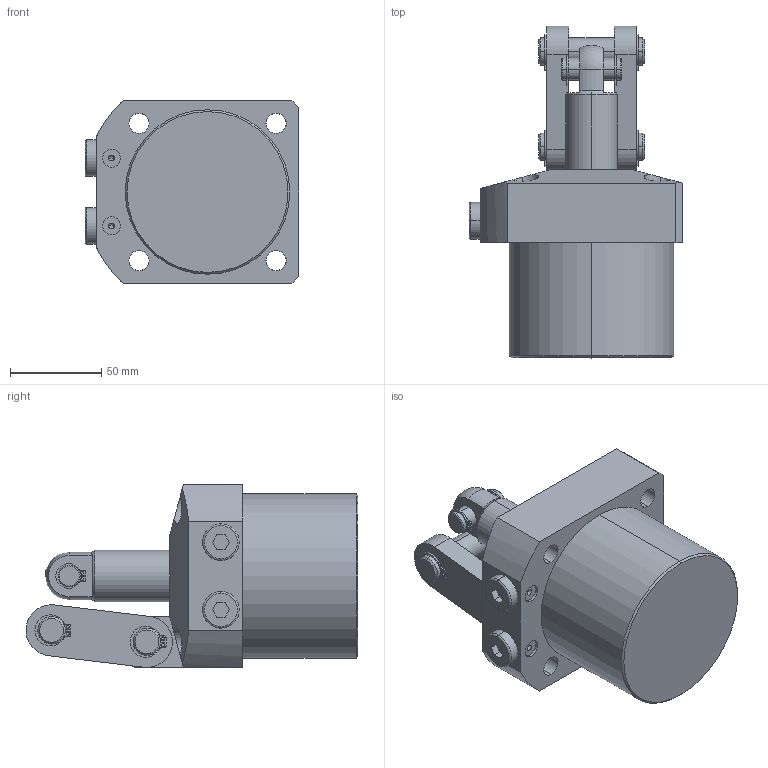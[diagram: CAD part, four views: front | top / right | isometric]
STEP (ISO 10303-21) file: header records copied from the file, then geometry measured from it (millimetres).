
FILE_DESCRIPTION (( 'STEP AP203' ), '1' );
FILE_NAME ('4171 721 L.STEP', '2017-11-25T11:25:04', ( '' ), ( '' ), 'SwSTEP 2.0', 'SolidWorks 2015', '' );
FILE_SCHEMA (( 'CONFIG_CONTROL_DESIGN' ));
Length unit declared in the file: millimetre
Products named in the file (8): LINK; PIN 1; PIN 2; (normal) external_is_IS 3075 NE- 12; (normal) external_is_IS 3075 NE- 15; 4171 721 L; BODY_4171 721 L; PR
Assembly tree (13 placements, depth 2):
  4171 721 L
    BODY_4171 721 L
    PR
    LINK  x2
    PIN 1
    PIN 2  x2
    (normal) external_is_IS 3075 NE- 12  x2
    (normal) external_is_IS 3075 NE- 15  x4
Bounding box: 117 x 181.6 x 100 mm (x, y, z)
Volume: 878823.5 mm3; surface area: 94947.2 mm2
Topology: 13 solids, 13 shells, 340 faces, 836 edges, 539 vertices
Faces by surface type: cylinder 173, plane 121, cone 40, torus 4, sphere 2
Entity records: 7618 total; most frequent: CARTESIAN_POINT 1291, DIRECTION 1196, ORIENTED_EDGE 1054, EDGE_CURVE 527, AXIS2_PLACEMENT_3D 467, VERTEX_POINT 338, EDGE_LOOP 265, LINE 262
